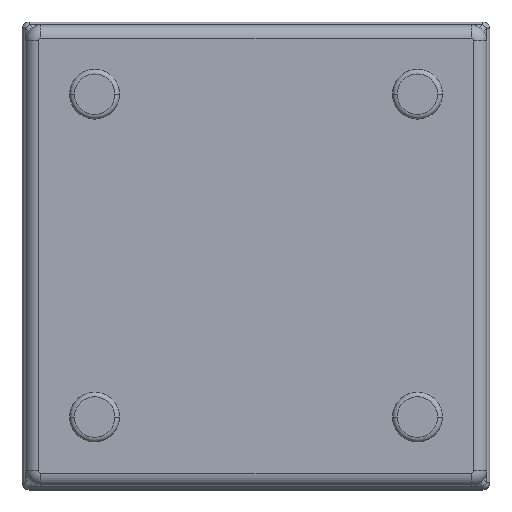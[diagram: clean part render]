
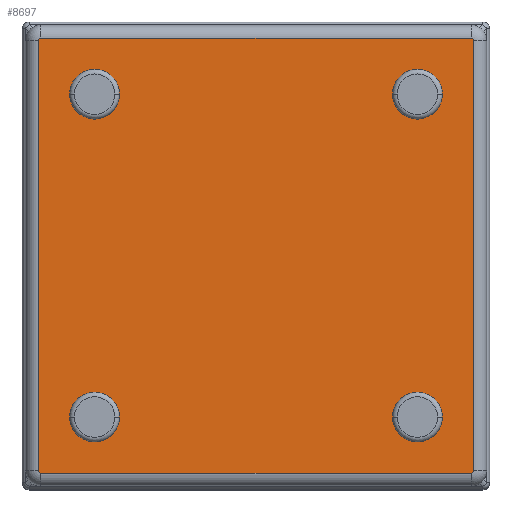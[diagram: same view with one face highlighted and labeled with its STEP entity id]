
A CAD part, top view. The second image highlights one B-rep face of the part: STEP entity #8697.
In plain terms, the highlighted planar face has unit normal (0, 0, 1).
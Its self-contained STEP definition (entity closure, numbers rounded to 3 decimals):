
#157 = DIRECTION ( 'NONE',  ( -1., 0., 0. ) ) ;
#171 = DIRECTION ( 'NONE',  ( 0., 0., 1. ) ) ;
#201 = CARTESIAN_POINT ( 'NONE',  ( -69., -69., 0. ) ) ;
#285 = CARTESIAN_POINT ( 'NONE',  ( 69., 69.8, 0. ) ) ;
#314 = EDGE_LOOP ( 'NONE', ( #10642, #10314 ) ) ;
#467 = VERTEX_POINT ( 'NONE', #7585 ) ;
#504 = CIRCLE ( 'NONE', #2401, 8. ) ;
#622 = EDGE_LOOP ( 'NONE', ( #10400, #10385 ) ) ;
#915 = CIRCLE ( 'NONE', #2489, 8. ) ;
#917 = DIRECTION ( 'NONE',  ( -1., 0., 0. ) ) ;
#984 = DIRECTION ( 'NONE',  ( -1., 0., 0. ) ) ;
#991 = CARTESIAN_POINT ( 'NONE',  ( -69., 69., 0. ) ) ;
#1008 = CARTESIAN_POINT ( 'NONE',  ( -69., 69.8, 0. ) ) ;
#1324 = CARTESIAN_POINT ( 'NONE',  ( 43.8, -51.8, 0. ) ) ;
#1622 = CIRCLE ( 'NONE', #2605, 8. ) ;
#1735 = VERTEX_POINT ( 'NONE', #2754 ) ;
#1943 = CARTESIAN_POINT ( 'NONE',  ( 43.8, 51.8, 0. ) ) ;
#2144 = CARTESIAN_POINT ( 'NONE',  ( -43.8, -51.8, 0. ) ) ;
#2365 = DIRECTION ( 'NONE',  ( -1., 0., 0. ) ) ;
#2368 = DIRECTION ( 'NONE',  ( 0., 0., -1. ) ) ;
#2374 = CARTESIAN_POINT ( 'NONE',  ( 51.8, 51.8, 0. ) ) ;
#2401 = AXIS2_PLACEMENT_3D ( 'NONE', #9961, #9947, #9943 ) ;
#2489 = AXIS2_PLACEMENT_3D ( 'NONE', #10817, #10802, #10798 ) ;
#2605 = AXIS2_PLACEMENT_3D ( 'NONE', #11653, #11644, #11632 ) ;
#2754 = CARTESIAN_POINT ( 'NONE',  ( 69.8, 69., 0. ) ) ;
#3029 = DIRECTION ( 'NONE',  ( 1., 0., 0. ) ) ;
#3191 = AXIS2_PLACEMENT_3D ( 'NONE', #7315, #7231, #7164 ) ;
#3248 = CIRCLE ( 'NONE', #7287, 0.8 ) ;
#3301 = CIRCLE ( 'NONE', #3191, 8. ) ;
#3314 = AXIS2_PLACEMENT_3D ( 'NONE', #9311, #9281, #9210 ) ;
#3350 = AXIS2_PLACEMENT_3D ( 'NONE', #10060, #10107, #9777 ) ;
#3354 = VECTOR ( 'NONE', #3929, 1000. ) ;
#3456 = VERTEX_POINT ( 'NONE', #10898 ) ;
#3491 = LINE ( 'NONE', #3706, #3354 ) ;
#3566 = CIRCLE ( 'NONE', #3314, 8. ) ;
#3693 = CIRCLE ( 'NONE', #3350, 8. ) ;
#3706 = CARTESIAN_POINT ( 'NONE',  ( 69.8, 69., 0. ) ) ;
#3734 = DIRECTION ( 'NONE',  ( 0., -1., 0. ) ) ;
#3748 = CARTESIAN_POINT ( 'NONE',  ( -69.8, -69., 0. ) ) ;
#3755 = CARTESIAN_POINT ( 'NONE',  ( 69., -69.8, 0. ) ) ;
#3929 = DIRECTION ( 'NONE',  ( 0., 1., 0. ) ) ;
#3984 = AXIS2_PLACEMENT_3D ( 'NONE', #2374, #2368, #2365 ) ;
#4445 = VERTEX_POINT ( 'NONE', #6072 ) ;
#4693 = AXIS2_PLACEMENT_3D ( 'NONE', #201, #171, #157 ) ;
#5273 = CARTESIAN_POINT ( 'NONE',  ( -69.8, -69., 0. ) ) ;
#5296 = EDGE_CURVE ( 'NONE', #5392, #7726, #5492, .T. ) ;
#5392 = VERTEX_POINT ( 'NONE', #1943 ) ;
#5403 = CARTESIAN_POINT ( 'NONE',  ( 59.8, -51.8, 0. ) ) ;
#5492 = CIRCLE ( 'NONE', #3984, 8. ) ;
#5523 = VERTEX_POINT ( 'NONE', #1324 ) ;
#5977 = VERTEX_POINT ( 'NONE', #10321 ) ;
#5986 = EDGE_CURVE ( 'NONE', #5523, #10886, #3693, .T. ) ;
#6035 = EDGE_CURVE ( 'NONE', #6660, #8142, #3566, .T. ) ;
#6072 = CARTESIAN_POINT ( 'NONE',  ( -69., -69.8, 0. ) ) ;
#6157 = CIRCLE ( 'NONE', #11205, 8. ) ;
#6166 = EDGE_CURVE ( 'NONE', #10886, #5523, #3301, .T. ) ;
#6235 = VERTEX_POINT ( 'NONE', #6321 ) ;
#6321 = CARTESIAN_POINT ( 'NONE',  ( -59.8, 51.8, 0. ) ) ;
#6330 = CARTESIAN_POINT ( 'NONE',  ( 69.8, -69., 0. ) ) ;
#6404 = CARTESIAN_POINT ( 'NONE',  ( -69.8, 69., 0. ) ) ;
#6412 = DIRECTION ( 'NONE',  ( -1., 0., 0. ) ) ;
#6426 = DIRECTION ( 'NONE',  ( 0., 0., 1. ) ) ;
#6459 = CARTESIAN_POINT ( 'NONE',  ( 69., 69., 0. ) ) ;
#6527 = CARTESIAN_POINT ( 'NONE',  ( -59.8, -51.8, 0. ) ) ;
#6596 = CIRCLE ( 'NONE', #10738, 0.8 ) ;
#6660 = VERTEX_POINT ( 'NONE', #2144 ) ;
#7079 = EDGE_CURVE ( 'NONE', #6235, #467, #1622, .T. ) ;
#7164 = DIRECTION ( 'NONE',  ( -1., 0., 0. ) ) ;
#7231 = DIRECTION ( 'NONE',  ( 0., 0., -1. ) ) ;
#7287 = AXIS2_PLACEMENT_3D ( 'NONE', #991, #12310, #917 ) ;
#7315 = CARTESIAN_POINT ( 'NONE',  ( 51.8, -51.8, 0. ) ) ;
#7339 = EDGE_LOOP ( 'NONE', ( #10545, #10538 ) ) ;
#7343 = EDGE_CURVE ( 'NONE', #7726, #5392, #915, .T. ) ;
#7557 = EDGE_CURVE ( 'NONE', #467, #6235, #504, .T. ) ;
#7585 = CARTESIAN_POINT ( 'NONE',  ( -43.8, 51.8, 0. ) ) ;
#7726 = VERTEX_POINT ( 'NONE', #9163 ) ;
#7799 = EDGE_LOOP ( 'NONE', ( #10616, #10557 ) ) ;
#8142 = VERTEX_POINT ( 'NONE', #6527 ) ;
#8248 = LINE ( 'NONE', #1008, #8579 ) ;
#8579 = VECTOR ( 'NONE', #984, 1000. ) ;
#8673 = VECTOR ( 'NONE', #3029, 1000. ) ;
#8685 = EDGE_CURVE ( 'NONE', #5977, #9222, #11502, .T. ) ;
#8697 = ADVANCED_FACE ( 'NONE', ( #11221, #12323, #11772, #10891, #10734 ), #9571, .F. ) ;
#8735 = EDGE_LOOP ( 'NONE', ( #10242, #10172, #10130, #10005, #9723, #9668, #9633, #9531 ) ) ;
#8833 = EDGE_CURVE ( 'NONE', #9222, #1735, #3491, .T. ) ;
#8997 = LINE ( 'NONE', #3755, #8673 ) ;
#9010 = EDGE_CURVE ( 'NONE', #8142, #6660, #6157, .T. ) ;
#9163 = CARTESIAN_POINT ( 'NONE',  ( 59.8, 51.8, 0. ) ) ;
#9200 = EDGE_CURVE ( 'NONE', #1735, #10137, #6596, .T. ) ;
#9210 = DIRECTION ( 'NONE',  ( -1., 0., 0. ) ) ;
#9222 = VERTEX_POINT ( 'NONE', #6330 ) ;
#9271 = DIRECTION ( 'NONE',  ( -1., 0., 0. ) ) ;
#9281 = DIRECTION ( 'NONE',  ( 0., 0., -1. ) ) ;
#9303 = DIRECTION ( 'NONE',  ( 0., 0., -1. ) ) ;
#9311 = CARTESIAN_POINT ( 'NONE',  ( -51.8, -51.8, 0. ) ) ;
#9382 = DIRECTION ( 'NONE',  ( 0., 0., 1. ) ) ;
#9411 = DIRECTION ( 'NONE',  ( -1., 0., 0. ) ) ;
#9494 = CARTESIAN_POINT ( 'NONE',  ( 69., -69., 0. ) ) ;
#9531 = ORIENTED_EDGE ( 'NONE', *, *, #11596, .T. ) ;
#9571 = PLANE ( 'NONE',  #11757 ) ;
#9633 = ORIENTED_EDGE ( 'NONE', *, *, #11404, .T. ) ;
#9668 = ORIENTED_EDGE ( 'NONE', *, *, #10547, .T. ) ;
#9723 = ORIENTED_EDGE ( 'NONE', *, *, #10260, .T. ) ;
#9777 = DIRECTION ( 'NONE',  ( -1., 0., 0. ) ) ;
#9934 = CARTESIAN_POINT ( 'NONE',  ( 69., 69., 0. ) ) ;
#9943 = DIRECTION ( 'NONE',  ( -1., 0., 0. ) ) ;
#9947 = DIRECTION ( 'NONE',  ( 0., 0., -1. ) ) ;
#9961 = CARTESIAN_POINT ( 'NONE',  ( -51.8, 51.8, 0. ) ) ;
#10005 = ORIENTED_EDGE ( 'NONE', *, *, #10094, .T. ) ;
#10060 = CARTESIAN_POINT ( 'NONE',  ( 51.8, -51.8, 0. ) ) ;
#10066 = DIRECTION ( 'NONE',  ( -1., 0., 0. ) ) ;
#10077 = DIRECTION ( 'NONE',  ( 0., 0., -1. ) ) ;
#10094 = EDGE_CURVE ( 'NONE', #10137, #3456, #8248, .T. ) ;
#10099 = CARTESIAN_POINT ( 'NONE',  ( -51.8, -51.8, 0. ) ) ;
#10107 = DIRECTION ( 'NONE',  ( 0., 0., -1. ) ) ;
#10130 = ORIENTED_EDGE ( 'NONE', *, *, #9200, .T. ) ;
#10137 = VERTEX_POINT ( 'NONE', #285 ) ;
#10172 = ORIENTED_EDGE ( 'NONE', *, *, #8833, .T. ) ;
#10242 = ORIENTED_EDGE ( 'NONE', *, *, #8685, .T. ) ;
#10260 = EDGE_CURVE ( 'NONE', #3456, #10861, #3248, .T. ) ;
#10314 = ORIENTED_EDGE ( 'NONE', *, *, #6035, .T. ) ;
#10321 = CARTESIAN_POINT ( 'NONE',  ( 69., -69.8, 0. ) ) ;
#10385 = ORIENTED_EDGE ( 'NONE', *, *, #7079, .T. ) ;
#10400 = ORIENTED_EDGE ( 'NONE', *, *, #7557, .T. ) ;
#10538 = ORIENTED_EDGE ( 'NONE', *, *, #7343, .T. ) ;
#10545 = ORIENTED_EDGE ( 'NONE', *, *, #5296, .T. ) ;
#10547 = EDGE_CURVE ( 'NONE', #10861, #12320, #11208, .T. ) ;
#10557 = ORIENTED_EDGE ( 'NONE', *, *, #5986, .T. ) ;
#10616 = ORIENTED_EDGE ( 'NONE', *, *, #6166, .T. ) ;
#10642 = ORIENTED_EDGE ( 'NONE', *, *, #9010, .T. ) ;
#10734 = FACE_OUTER_BOUND ( 'NONE', #8735, .T. ) ;
#10738 = AXIS2_PLACEMENT_3D ( 'NONE', #6459, #6426, #6412 ) ;
#10798 = DIRECTION ( 'NONE',  ( -1., 0., 0. ) ) ;
#10802 = DIRECTION ( 'NONE',  ( 0., 0., -1. ) ) ;
#10817 = CARTESIAN_POINT ( 'NONE',  ( 51.8, 51.8, 0. ) ) ;
#10861 = VERTEX_POINT ( 'NONE', #6404 ) ;
#10886 = VERTEX_POINT ( 'NONE', #5403 ) ;
#10891 = FACE_BOUND ( 'NONE', #622, .T. ) ;
#10898 = CARTESIAN_POINT ( 'NONE',  ( -69., 69.8, 0. ) ) ;
#11205 = AXIS2_PLACEMENT_3D ( 'NONE', #10099, #10077, #10066 ) ;
#11208 = LINE ( 'NONE', #3748, #11367 ) ;
#11221 = FACE_BOUND ( 'NONE', #314, .T. ) ;
#11367 = VECTOR ( 'NONE', #3734, 1000. ) ;
#11404 = EDGE_CURVE ( 'NONE', #12320, #4445, #11745, .T. ) ;
#11502 = CIRCLE ( 'NONE', #11787, 0.8 ) ;
#11596 = EDGE_CURVE ( 'NONE', #4445, #5977, #8997, .T. ) ;
#11632 = DIRECTION ( 'NONE',  ( -1., 0., 0. ) ) ;
#11644 = DIRECTION ( 'NONE',  ( 0., 0., -1. ) ) ;
#11653 = CARTESIAN_POINT ( 'NONE',  ( -51.8, 51.8, 0. ) ) ;
#11745 = CIRCLE ( 'NONE', #4693, 0.8 ) ;
#11757 = AXIS2_PLACEMENT_3D ( 'NONE', #9934, #9303, #9271 ) ;
#11772 = FACE_BOUND ( 'NONE', #7339, .T. ) ;
#11787 = AXIS2_PLACEMENT_3D ( 'NONE', #9494, #9382, #9411 ) ;
#12310 = DIRECTION ( 'NONE',  ( 0., 0., 1. ) ) ;
#12320 = VERTEX_POINT ( 'NONE', #5273 ) ;
#12323 = FACE_BOUND ( 'NONE', #7799, .T. ) ;
